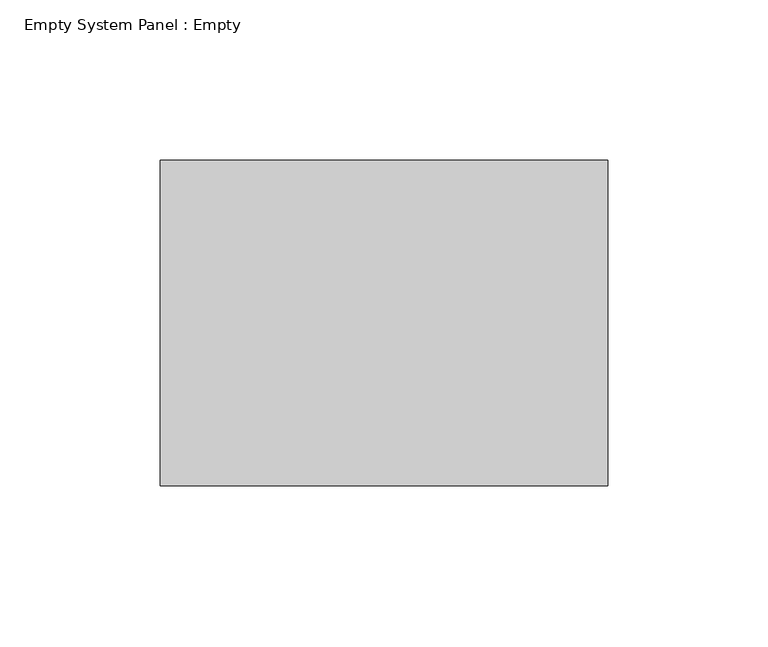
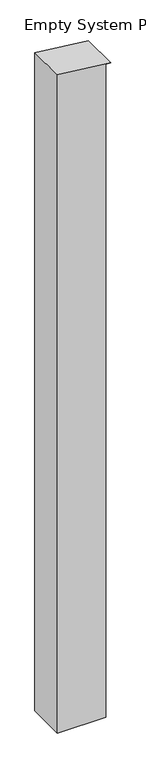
"""IFC4 building model written with IfcOpenShell, lengths in millimetres: plate geometry, Empty System Panel : Empty."""

from ifc_helpers import new_model, si_unit, frame, origin, place, context, project, spatial, polyline, outline, extrude, source, transform, mapped, element, save


def empty_system_panel_empty_980223c4(model_context):
    return source(origin(), model_context, "Body", "SweptSolid", [
        extrude(outline(polyline([(0.0, -69.85), (0.0, 57.15), (1803.8452924, 57.15), (1803.8452924, 69.85), (1819.4704823, -69.85), (0.0, -69.85)])), frame((0.0, -50.8, 0.0), z_axis=(0.0, 1.0, 0.0), x_axis=(0.0, 0.0, 1.0)), (0.0, 0.0, 1.0), 101.6),
    ])


if __name__ == "__main__":
    model = new_model("IFC4")
    model_context = context("Model", 3, world=origin())
    ifc_project = project(units=[si_unit("LENGTHUNIT", "METRE", prefix="MILLI")], contexts=[model_context])
    site = spatial("IfcSite", under=ifc_project)
    building = spatial("IfcBuilding", under=site)
    placement = place(None, origin())
    empty_system_panel_empty_shape = empty_system_panel_empty_980223c4(model_context)
    element("IfcPlate", 1, ObjectType="Empty System Panel : Empty", at=placement, inside=building, context=model_context, shape_type="MappedRepresentation", body=[
        mapped(empty_system_panel_empty_shape, transform((0.0, 0.0, 0.0), x_axis=(1.0, 0.0, 0.0), y_axis=(0.0, 1.0, 0.0), z_axis=(0.0, 0.0, 1.0))),
    ])
    save(model, "model.ifc")
